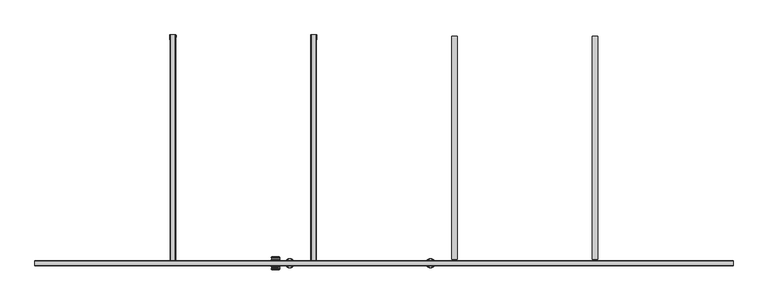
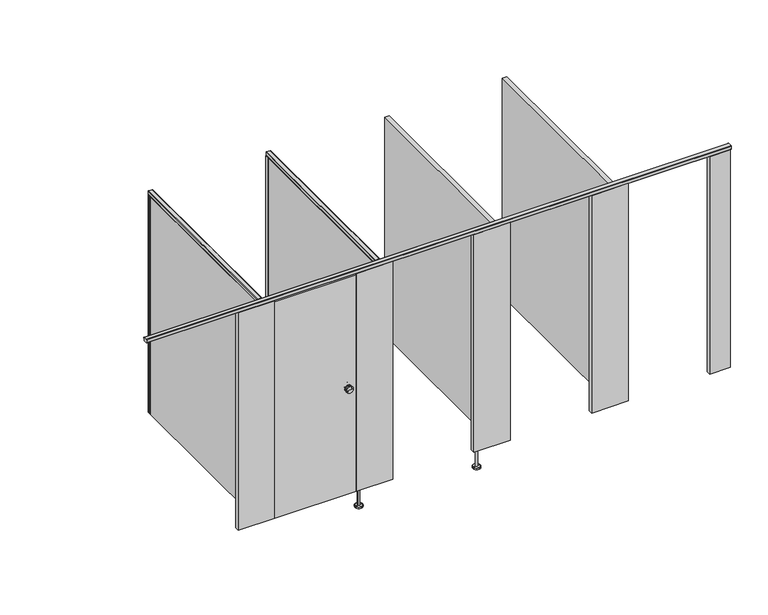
"""IFC4 building model written with IfcOpenShell, lengths in millimetres: proxy geometry, Partition_EuroStyle-Bradley_Corp-5StandardStall-NEP-LOFT : Partition_EuroStyle-Bradley_Corp-5StandardStall-NEP-LOFT."""

import ifcopenshell
import ifcopenshell.guid

model = None  # the IFC model being written
_history = None  # IfcOwnerHistory: only IFC2X3 demands one
_inside = {}  # id of a spatial element -> (the spatial element, [elements in it])
_under = {}  # id of a project, library or spatial element -> (it, [spatial elements below it])
_declared = {}  # id of a project -> (the project, [libraries it declares])
_typed = {}  # id of a type object -> (the type object, [elements of that type])
_made_of = {}  # id of a material, layer set ... -> (it, [elements and type objects made of it])


def new_model(schema):
    """Start an empty IFC model of exactly this schema.

    Asked for "IFC4X3", IfcOpenShell would pick the latest addendum, in which some entities
    have other attributes; the version numbers below select the first issue.
    IFC2X3 requires an IfcOwnerHistory on every rooted entity: one is made here for all.
    """
    global model, _history
    if schema == "IFC4X3":
        model = ifcopenshell.file(schema_version=(4, 3, 0, 0))
    else:
        model = ifcopenshell.file(schema=schema)
    _inside.clear()
    _under.clear()
    _declared.clear()
    _typed.clear()
    _made_of.clear()
    _history = None
    if model.schema == "IFC2X3":
        org = make("IfcOrganization", Name="unknown")
        user = make(
            "IfcPersonAndOrganization",
            ThePerson=make("IfcPerson", FamilyName="unknown"),
            TheOrganization=org,
        )
        app = make(
            "IfcApplication",
            ApplicationDeveloper=org,
            Version="unknown",
            ApplicationFullName="unknown",
            ApplicationIdentifier="unknown",
        )
        _history = make(
            "IfcOwnerHistory",
            OwningUser=user,
            OwningApplication=app,
            ChangeAction="ADDED",
            CreationDate=0,
        )
    return model


def make(cls, **values):
    """One entity of the class cls with the attributes given. An attribute that is None is left unset."""
    return model.create_entity(
        cls, **{name: value for name, value in values.items() if value is not None}
    )


def rooted(cls, **values):
    """An entity with a GlobalId (a new one), such as an element, a storey or a relation."""
    return make(cls, GlobalId=ifcopenshell.guid.new(), OwnerHistory=_history, **values)


def si_unit(unit_type, name, prefix=None):
    """IfcSIUnit, for example si_unit("LENGTHUNIT", "METRE", prefix="MILLI")."""
    return make("IfcSIUnit", UnitType=unit_type, Prefix=prefix, Name=name)


def assignment(units):
    """IfcUnitAssignment: the units of a project."""
    return None if units is None else make("IfcUnitAssignment", Units=units)


def point(xyz):
    """IfcCartesianPoint."""
    return None if xyz is None else make("IfcCartesianPoint", Coordinates=xyz)


def direction(xyz):
    """IfcDirection."""
    return None if xyz is None else make("IfcDirection", DirectionRatios=xyz)


def frame(location, z_axis=None, x_axis=None):
    """IfcAxis2Placement3D, a coordinate frame: its origin and axes. An axis left out is left unset."""
    return make(
        "IfcAxis2Placement3D",
        Location=point(location),
        Axis=direction(z_axis),
        RefDirection=direction(x_axis),
    )


def frame_2d(location, x_axis=None):
    """IfcAxis2Placement2D, a coordinate frame in the plane: its origin and x axis."""
    return make(
        "IfcAxis2Placement2D", Location=point(location), RefDirection=direction(x_axis)
    )


def origin():
    """The frame at (0, 0, 0) with its axes left unset."""
    return frame((0.0, 0.0, 0.0))


def place(relative_to, where):
    """IfcLocalPlacement: puts the frame where relative to a parent placement (None: the world)."""
    return make(
        "IfcLocalPlacement", PlacementRelTo=relative_to, RelativePlacement=where
    )


def context(
    kind, dimensions, precision=None, world=None, true_north=None, identifier=None
):
    """IfcGeometricRepresentationContext, for example the 3D "Model" context."""
    return make(
        "IfcGeometricRepresentationContext",
        ContextIdentifier=identifier,
        ContextType=kind,
        CoordinateSpaceDimension=dimensions,
        Precision=precision,
        WorldCoordinateSystem=world,
        TrueNorth=true_north,
    )


def project(units=None, contexts=None):
    """IfcProject with its units and contexts."""
    return rooted(
        "IfcProject",
        Name="project",
        RepresentationContexts=contexts,
        UnitsInContext=assignment(units),
    )


def spatial(cls, under=None, at=None, **own):
    """A site, building, storey or space (cls), placed at a placement, below another one or the project."""
    s = rooted(cls, ObjectPlacement=at, **own)
    if under is not None:
        _under.setdefault(under.id(), (under, []))[1].append(s)
    return s


def polyline(points):
    """IfcPolyline through the points."""
    return make("IfcPolyline", Points=[point(p) for p in points])


def circle_curve(where, radius):
    """IfcCircle in the frame where."""
    return make("IfcCircle", Position=where, Radius=radius)


def ellipse_curve(where, semi_axis1, semi_axis2):
    """IfcEllipse in the frame where."""
    return make(
        "IfcEllipse", Position=where, SemiAxis1=semi_axis1, SemiAxis2=semi_axis2
    )


def trimmed(basis, trim1, trim2, sense, master):
    """IfcTrimmedCurve: the piece of a basis curve between two trims."""
    return make(
        "IfcTrimmedCurve",
        BasisCurve=basis,
        Trim1=trim1,
        Trim2=trim2,
        SenseAgreement=sense,
        MasterRepresentation=master,
    )


def segment(curve, same_sense, transition):
    """IfcCompositeCurveSegment."""
    return make(
        "IfcCompositeCurveSegment",
        Transition=transition,
        SameSense=same_sense,
        ParentCurve=curve,
    )


def composite_curve(segments, self_intersect=None):
    """IfcCompositeCurve: segments joined end to end."""
    return make("IfcCompositeCurve", Segments=segments, SelfIntersect=self_intersect)


def outline(outer, holes=None, kind="AREA"):
    """IfcArbitraryClosedProfileDef: a profile drawn as a closed curve; with holes, ...WithVoids."""
    if holes is None:
        return make("IfcArbitraryClosedProfileDef", ProfileType=kind, OuterCurve=outer)
    return make(
        "IfcArbitraryProfileDefWithVoids",
        ProfileType=kind,
        OuterCurve=outer,
        InnerCurves=holes,
    )


def extrude(swept, where, along, depth):
    """IfcExtrudedAreaSolid: the profile swept, set in the frame where, extruded along a direction by depth."""
    return make(
        "IfcExtrudedAreaSolid",
        SweptArea=swept,
        Position=where,
        ExtrudedDirection=direction(along),
        Depth=depth,
    )


def shape(context_of_items, identifier, shape_type, items):
    """IfcShapeRepresentation: the items that make up one representation, for example the "Body"."""
    return make(
        "IfcShapeRepresentation",
        ContextOfItems=context_of_items,
        RepresentationIdentifier=identifier,
        RepresentationType=shape_type,
        Items=items,
    )


def source(mapping_origin, context_of_items, identifier, shape_type, items):
    """IfcRepresentationMap: a shape defined once, which mapped items show again and again."""
    return make(
        "IfcRepresentationMap",
        MappingOrigin=mapping_origin,
        MappedRepresentation=shape(context_of_items, identifier, shape_type, items),
    )


def transform(
    local_origin,
    x_axis=None,
    y_axis=None,
    z_axis=None,
    scale=None,
    scale2=None,
    scale3=None,
    uniform=True,
):
    """IfcCartesianTransformationOperator3D, or its non-uniform kind. x_axis, y_axis, z_axis: its Axis1, 2, 3."""
    if uniform:
        return make(
            "IfcCartesianTransformationOperator3D",
            Axis1=direction(x_axis),
            Axis2=direction(y_axis),
            LocalOrigin=point(local_origin),
            Scale=scale,
            Axis3=direction(z_axis),
        )
    return make(
        "IfcCartesianTransformationOperator3DnonUniform",
        Axis1=direction(x_axis),
        Axis2=direction(y_axis),
        LocalOrigin=point(local_origin),
        Scale=scale,
        Axis3=direction(z_axis),
        Scale2=scale2,
        Scale3=scale3,
    )


def mapped(mapping_source, mapping_target):
    """IfcMappedItem: shows the shape of a source again, moved by a transform."""
    return make(
        "IfcMappedItem", MappingSource=mapping_source, MappingTarget=mapping_target
    )


def made_of(thing, what):
    """Note that an element or type object is made of a material, layer set ...; save() writes the relation."""
    if what is not None:
        _made_of.setdefault(what.id(), (what, []))[1].append(thing)
    return thing


def element(
    cls,
    number,
    at=None,
    inside=None,
    cuts=None,
    type_object=None,
    material=None,
    context=None,
    identifier="Body",
    shape_type=None,
    held_by="IfcProductDefinitionShape",
    body=None,
    shapes=None,
    **own,
):
    """One element of the class cls, such as IfcWall. Its Tag is "e" and its number.

    at: its placement. inside: the storey or other place that contains it. cuts: it is an
    opening in that element (IfcRelVoidsElement). A single representation is given by context,
    identifier, shape_type and body (its items); several are given by shapes. held_by: the class
    of the entity that holds the representations. save() writes the other relations.
    """
    e = rooted(cls, Tag="e%d" % number, ObjectPlacement=at, **own)
    if body is not None:
        shapes = [shape(context, identifier, shape_type, body)]
    if shapes is not None:
        e.Representation = make(held_by, Representations=shapes)
    if inside is not None:
        _inside.setdefault(inside.id(), (inside, []))[1].append(e)
    if cuts is not None:
        rooted(
            "IfcRelVoidsElement", RelatingBuildingElement=cuts, RelatedOpeningElement=e
        )
    if type_object is not None:
        _typed.setdefault(type_object.id(), (type_object, []))[1].append(e)
    return made_of(e, material)


def aggregate(whole, parts):
    """IfcRelAggregates: a whole, such as a stair, and the parts it consists of."""
    return rooted("IfcRelAggregates", RelatingObject=whole, RelatedObjects=parts)


def save(model, path):
    """Write the relations noted so far, then the file.

    IfcRelAggregates (storeys below a building ...), IfcRelContainedInSpatialStructure (elements
    in a storey), IfcRelDefinesByType, IfcRelAssociatesMaterial and IfcRelDeclares: one each for
    every whole, place, type object, material and project.
    """
    for whole, parts in _under.values():
        aggregate(whole, parts)
    for where, things in _inside.values():
        rooted(
            "IfcRelContainedInSpatialStructure",
            RelatedElements=things,
            RelatingStructure=where,
        )
    for kind, things in _typed.values():
        rooted("IfcRelDefinesByType", RelatedObjects=things, RelatingType=kind)
    for what, things in _made_of.values():
        rooted("IfcRelAssociatesMaterial", RelatedObjects=things, RelatingMaterial=what)
    for by, libraries in _declared.values():
        rooted("IfcRelDeclares", RelatingContext=by, RelatedDefinitions=libraries)
    model.write(path)


def plane_surface(at):
    """IfcPlane: the flat surface through the origin of the frame at, square to its z axis."""
    return make("IfcPlane", Position=at)


def cylinder_surface(at, radius):
    """IfcCylindricalSurface: all points at the distance radius from the z axis of the frame at."""
    return make("IfcCylindricalSurface", Position=at, Radius=radius)


def revolved_surface(curve, axis_point, axis_direction):
    """IfcSurfaceOfRevolution: the curve turned about the line through axis_point along axis_direction."""
    return make(
        "IfcSurfaceOfRevolution",
        SweptCurve=make("IfcArbitraryOpenProfileDef", ProfileType="CURVE", Curve=curve),
        AxisPosition=make("IfcAxis1Placement", Location=point(axis_point), Axis=direction(axis_direction)),
    )


def advanced_brep(points, edges, surfaces, faces):
    """IfcAdvancedBrep: a solid bounded by faces that lie on surfaces and meet in shared edges.

    An edge is (start, end): straight between two places in points (the first is 0);
    or (start, end, curve); or (start, end, curve, False) where it runs against its curve.
    A face is (place in surfaces, loops), or (place, loops, False) where it looks against
    its surface's normal. A loop lists edges by number (the first is 1), with a minus sign
    where the edge is run from its end to its start. The first loop is the outer one.
    """
    corners = [point(p) for p in points]
    vertices = [make("IfcVertexPoint", VertexGeometry=c) for c in corners]
    made = []
    for start, end, *more in edges:
        made.append(
            make(
                "IfcEdgeCurve",
                EdgeStart=vertices[start],
                EdgeEnd=vertices[end],
                EdgeGeometry=more[0] if more else make("IfcPolyline", Points=[corners[start], corners[end]]),
                SameSense=more[1] if len(more) > 1 else True,
            )
        )
    hull = []
    for where, loops, *sense in faces:
        bounds = []
        for j, loop in enumerate(loops):
            ring = [make("IfcOrientedEdge", EdgeElement=made[abs(k) - 1], Orientation=k > 0) for k in loop]
            bounds.append(
                make(
                    "IfcFaceOuterBound" if j == 0 else "IfcFaceBound",
                    Bound=make("IfcEdgeLoop", EdgeList=ring),
                    Orientation=True,
                )
            )
        hull.append(make("IfcAdvancedFace", Bounds=bounds, FaceSurface=surfaces[where], SameSense=sense[0] if sense else True))
    return make("IfcAdvancedBrep", Outer=make("IfcClosedShell", CfsFaces=hull))


def specialty_equipment_55b33e95(model_context):
    return source(origin(), model_context, "Body", "SolidModel", [
        advanced_brep(
        [(2535.8453255, -1541.9996549, 150.0000008), (2553.8453248, -1541.9996549, 150.0000008), (2553.8453248, -1541.9996549, 12.0000001), (2535.8453255, -1541.9996549, 12.0000001), (2544.8453251, -1541.9996549, 150.0000008), (2513.8453262, -1541.9996549, 0.0), (2575.8453241, -1541.9996549, 0.0), (2544.8453251, -1541.9996549, 0.0), (2513.8453262, -1541.9996549, 10.0000001), (2575.8453241, -1541.9996549, 10.0000001), (2515.8477381, -1541.9996549, 12.0000001), (2573.8429122, -1541.9996549, 12.0000001)],
        [
            (0, 1, circle_curve(frame((2544.8453251, -1541.9996549, 150.0000008), z_axis=(0.0, 0.0, -1.0), x_axis=(1.0, 0.0, 0.0)), 8.9999997)),
            (1, 2),
            (2, 3, circle_curve(frame((2544.8453251, -1541.9996549, 12.0000001), z_axis=(0.0, 0.0, 1.0), x_axis=(1.0, 0.0, 0.0)), 8.9999997)),
            (3, 0),
            (1, 0, circle_curve(frame((2544.8453251, -1541.9996549, 150.0000008), z_axis=(0.0, 0.0, -1.0), x_axis=(1.0, 0.0, 0.0)), 8.9999997)),
            (3, 2, circle_curve(frame((2544.8453251, -1541.9996549, 12.0000001), z_axis=(0.0, 0.0, 1.0), x_axis=(1.0, 0.0, 0.0)), 8.9999997)),
            (4, 1),
            (0, 4),
            (5, 6, circle_curve(frame((2544.8453251, -1541.9996549, 0.0), z_axis=(0.0, 0.0, -1.0), x_axis=(1.0, 0.0, 0.0)), 30.9999989)),
            (6, 7),
            (7, 5),
            (6, 5, circle_curve(frame((2544.8453251, -1541.9996549, 0.0), z_axis=(0.0, 0.0, -1.0), x_axis=(1.0, 0.0, 0.0)), 30.9999989)),
            (8, 9, circle_curve(frame((2544.8453251, -1541.9996549, 10.0000001), z_axis=(0.0, 0.0, -1.0), x_axis=(1.0, 0.0, 0.0)), 30.9999989)),
            (9, 6),
            (5, 8),
            (9, 8, circle_curve(frame((2544.8453251, -1541.9996549, 10.0000001), z_axis=(0.0, 0.0, -1.0), x_axis=(1.0, 0.0, 0.0)), 30.9999989)),
            (10, 11, circle_curve(frame((2544.8453251, -1541.9996549, 12.0000001), z_axis=(0.0, 0.0, -1.0), x_axis=(1.0, 0.0, 0.0)), 28.997587)),
            (11, 9),
            (8, 10),
            (11, 10, circle_curve(frame((2544.8453251, -1541.9996549, 12.0000001), z_axis=(0.0, 0.0, -1.0), x_axis=(1.0, 0.0, 0.0)), 28.997587)),
            (2, 11),
            (10, 3),
        ],
        [
            cylinder_surface(frame((2544.8453251, -1541.9996549, 0.0), z_axis=(0.0, 0.0, 1.0), x_axis=(1.0, 0.0, 0.0)), 8.9999997),
            plane_surface(frame((2544.8453251, -1541.9996549, 150.0000008), z_axis=(0.0, 0.0, 1.0), x_axis=(1.0, 0.0, 0.0))),
            plane_surface(frame((2544.8453251, -1541.9996549, 0.0), z_axis=(0.0, 0.0, -1.0), x_axis=(1.0, 0.0, 0.0))),
            cylinder_surface(frame((2544.8453251, -1541.9996549, 0.0), z_axis=(0.0, 0.0, 1.0), x_axis=(1.0, 0.0, 0.0)), 30.9999989),
            revolved_surface(polyline([(2575.8453241, -1541.9996549, 10.0000001), (2573.8429122, -1541.9996549, 12.0000001)]), (2544.8453251, -1541.9996549, 0.0), (0.0, 0.0, 1.0)),
            plane_surface(frame((2544.8453251, -1541.9996549, 12.0000001), z_axis=(0.0, 0.0, 1.0), x_axis=(1.0, 0.0, 0.0))),
        ],
        [
            (0, [[1, 2, 3, 4]]),
            (0, [[5, -4, 6, -2]]),
            (1, [[7, -1, 8]]),
            (1, [[-8, -5, -7]]),
            (2, [[9, 10, 11]]),
            (2, [[12, -11, -10]]),
            (3, [[13, 14, -9, 15]]),
            (3, [[16, -15, -12, -14]]),
            (4, [[17, 18, -13, 19]]),
            (4, [[20, -19, -16, -18]]),
            (5, [[-3, 21, -17, 22]]),
            (5, [[-6, -22, -20, -21]]),
        ],
    ),
        advanced_brep(
        [(1470.4451766, -1524.0098174, 1050.0), (1527.5951766, -1524.0098174, 1050.0), (1499.0201766, -1524.0098174, 1050.0), (1470.4451766, -1519.2473174, 1050.0), (1527.5951766, -1519.2473174, 1050.0), (1470.4451766, -1500.1973174, 1050.0), (1527.5951766, -1500.1973174, 1050.0), (1527.5951766, -1504.9598174, 1050.0), (1470.4451766, -1504.9598174, 1050.0), (1526.0076766, -1506.5473174, 1050.0), (1472.0326766, -1506.5473174, 1050.0), (1526.0076766, -1517.6598174, 1050.0), (1472.0326766, -1517.6598174, 1050.0), (1499.0201766, -1498.6098174, 1050.0)],
        [
            (0, 1, circle_curve(frame((1499.0201766, -1524.0098174, 1050.0), z_axis=(0.0, -1.0, 0.0), x_axis=(1.0000000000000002, 0.0, 0.0)), 28.575)),
            (1, 2),
            (2, 0),
            (1, 0, circle_curve(frame((1499.0201766, -1524.0098174, 1050.0), z_axis=(0.0, -1.0, 0.0), x_axis=(1.0000000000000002, 0.0, 0.0)), 28.575)),
            (3, 4, circle_curve(frame((1499.0201766, -1519.2473174, 1050.0), z_axis=(0.0, -1.0, 0.0), x_axis=(1.0000000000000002, 0.0, 0.0)), 28.575)),
            (4, 1),
            (0, 3),
            (4, 3, circle_curve(frame((1499.0201766, -1519.2473174, 1050.0), z_axis=(0.0, -1.0, 0.0), x_axis=(1.0000000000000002, 0.0, 0.0)), 28.575)),
            (5, 6, circle_curve(frame((1499.0201766, -1500.1973174, 1050.0), z_axis=(0.0, -1.0, 0.0), x_axis=(1.0000000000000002, 0.0, 0.0)), 28.575)),
            (6, 7),
            (7, 8, circle_curve(frame((1499.0201766, -1504.9598174, 1050.0), z_axis=(0.0, 1.0, 0.0), x_axis=(1.0000000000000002, 0.0, 0.0)), 28.575)),
            (8, 5),
            (6, 5, circle_curve(frame((1499.0201766, -1500.1973174, 1050.0), z_axis=(0.0, -1.0, 0.0), x_axis=(1.0000000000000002, 0.0, 0.0)), 28.575)),
            (8, 7, circle_curve(frame((1499.0201766, -1504.9598174, 1050.0), z_axis=(0.0, 1.0, 0.0), x_axis=(1.0000000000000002, 0.0, 0.0)), 28.575)),
            (7, 9, circle_curve(frame((1527.5951766, -1506.5473174, 1050.0), z_axis=(0.0, 0.0, 1.0), x_axis=(1.0000000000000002, 0.0, 0.0)), 1.5875)),
            (9, 10, circle_curve(frame((1499.0201766, -1506.5473174, 1050.0), z_axis=(0.0, 1.0, 0.0), x_axis=(1.0000000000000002, 0.0, 0.0)), 26.9875)),
            (10, 8, circle_curve(frame((1470.4451766, -1506.5473174, 1050.0), z_axis=(0.0, 0.0, 1.0), x_axis=(-1.0000000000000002, 0.0, 0.0)), 1.5875)),
            (10, 9, circle_curve(frame((1499.0201766, -1506.5473174, 1050.0), z_axis=(0.0, 1.0, 0.0), x_axis=(1.0000000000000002, 0.0, 0.0)), 26.9875)),
            (9, 11),
            (11, 12, circle_curve(frame((1499.0201766, -1517.6598174, 1050.0), z_axis=(0.0, 1.0, 0.0), x_axis=(1.0000000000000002, 0.0, 0.0)), 26.9875)),
            (12, 10),
            (12, 11, circle_curve(frame((1499.0201766, -1517.6598174, 1050.0), z_axis=(0.0, 1.0, 0.0), x_axis=(1.0000000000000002, 0.0, 0.0)), 26.9875)),
            (11, 4, circle_curve(frame((1527.5951766, -1517.6598174, 1050.0), z_axis=(0.0, 0.0, 1.0), x_axis=(1.0000000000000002, 0.0, 0.0)), 1.5875)),
            (3, 12, circle_curve(frame((1470.4451766, -1517.6598174, 1050.0), z_axis=(0.0, 0.0, 1.0), x_axis=(-1.0000000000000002, 0.0, 0.0)), 1.5875)),
            (13, 6, circle_curve(frame((1502.7143, -1690.0843466, 1050.0), z_axis=(0.0, 0.0, -1.0), x_axis=(1.0000000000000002, 0.0, 0.0)), 191.5101613)),
            (5, 13, circle_curve(frame((1495.3260533, -1690.0843466, 1050.0), z_axis=(0.0, 0.0, -1.0), x_axis=(-1.0000000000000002, 0.0, 0.0)), 191.5101613)),
        ],
        [
            plane_surface(frame((1499.0201766, -1524.0098174, 1050.0), z_axis=(0.0, -1.0, 0.0), x_axis=(1.0, 0.0, 0.0))),
            cylinder_surface(frame((1499.0201766, -1524.0098174, 1050.0), z_axis=(0.0, 1.0000000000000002, 0.0), x_axis=(1.0000000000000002, 0.0, 0.0)), 28.575),
            revolved_surface(trimmed(ellipse_curve(frame((1527.5951766, -1506.5473174, 1050.0), z_axis=(0.0, 0.0, -1.0), x_axis=(1.0000000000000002, 0.0, 0.0)), 1.5875, 1.5875), [point((1526.0076766, -1506.5473174, 1050.0))], [point((1527.5951766, -1504.9598174, 1050.0))], True, "CARTESIAN"), (1499.0201766, -1524.0098174, 1050.0), (0.0, 1.0000000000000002, 0.0)),
            cylinder_surface(frame((1499.0201766, -1524.0098174, 1050.0), z_axis=(0.0, 1.0000000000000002, 0.0), x_axis=(1.0000000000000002, 0.0, 0.0)), 26.9875),
            revolved_surface(trimmed(ellipse_curve(frame((1527.5951766, -1517.6598174, 1050.0), z_axis=(0.0, 0.0, -1.0), x_axis=(1.0000000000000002, 0.0, 0.0)), 1.5875, 1.5875), [point((1527.5951766, -1519.2473174, 1050.0))], [point((1526.0076766, -1517.6598174, 1050.0))], True, "CARTESIAN"), (1499.0201766, -1524.0098174, 1050.0), (0.0, 1.0000000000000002, 0.0)),
            revolved_surface(trimmed(ellipse_curve(frame((1502.7143, -1690.0843466, 1050.0), z_axis=(0.0, 0.0, 1.0), x_axis=(1.0000000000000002, 0.0, 0.0)), 191.5101613, 191.5101613), [point((1527.5951766, -1500.1973174, 1050.0))], [point((1499.0201766, -1498.6098174, 1050.0))], True, "CARTESIAN"), (1499.0201766, -1524.0098174, 1050.0), (0.0, 1.0000000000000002, 0.0)),
        ],
        [
            (0, [[1, 2, 3]]),
            (0, [[4, -3, -2]]),
            (1, [[5, 6, -1, 7]]),
            (1, [[8, -7, -4, -6]]),
            (1, [[9, 10, 11, 12]]),
            (1, [[13, -12, 14, -10]]),
            (2, [[-11, 15, 16, 17]]),
            (2, [[-14, -17, 18, -15]]),
            (3, [[-16, 19, 20, 21]]),
            (3, [[-18, -21, 22, -19]]),
            (4, [[-20, 23, -5, 24]]),
            (4, [[-22, -24, -8, -23]]),
            (5, [[25, -9, 26]]),
            (5, [[-26, -13, -25]]),
        ],
    ),
        advanced_brep(
        [(1499.0201766, -1560.0098174, 1050.0), (1527.5951766, -1560.0098174, 1050.0), (1470.4451766, -1560.0098174, 1050.0), (1527.5951766, -1564.7723174, 1050.0), (1470.4451766, -1564.7723174, 1050.0), (1470.4451766, -1579.0598174, 1050.0), (1527.5951766, -1579.0598174, 1050.0), (1527.5951766, -1583.8223174, 1050.0), (1470.4451766, -1583.8223174, 1050.0), (1472.0326766, -1577.4723174, 1050.0), (1526.0076766, -1577.4723174, 1050.0), (1472.0326766, -1566.3598174, 1050.0), (1526.0076766, -1566.3598174, 1050.0), (1499.0201766, -1585.4098174, 1050.0)],
        [
            (0, 1),
            (1, 2, circle_curve(frame((1499.0201766, -1560.0098174, 1050.0), z_axis=(0.0, 1.0, 0.0), x_axis=(1.0000000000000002, 0.0, 0.0)), 28.575)),
            (2, 0),
            (2, 1, circle_curve(frame((1499.0201766, -1560.0098174, 1050.0), z_axis=(0.0, 1.0, 0.0), x_axis=(1.0000000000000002, 0.0, 0.0)), 28.575)),
            (1, 3),
            (3, 4, circle_curve(frame((1499.0201766, -1564.7723174, 1050.0), z_axis=(0.0, 1.0, 0.0), x_axis=(1.0000000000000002, 0.0, 0.0)), 28.575)),
            (4, 2),
            (4, 3, circle_curve(frame((1499.0201766, -1564.7723174, 1050.0), z_axis=(0.0, 1.0, 0.0), x_axis=(1.0000000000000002, 0.0, 0.0)), 28.575)),
            (5, 6, circle_curve(frame((1499.0201766, -1579.0598174, 1050.0), z_axis=(0.0, -1.0, 0.0), x_axis=(1.0000000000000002, 0.0, 0.0)), 28.575)),
            (6, 7),
            (7, 8, circle_curve(frame((1499.0201766, -1583.8223174, 1050.0), z_axis=(0.0, 1.0, 0.0), x_axis=(1.0000000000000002, 0.0, 0.0)), 28.575)),
            (8, 5),
            (6, 5, circle_curve(frame((1499.0201766, -1579.0598174, 1050.0), z_axis=(0.0, -1.0, 0.0), x_axis=(1.0000000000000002, 0.0, 0.0)), 28.575)),
            (8, 7, circle_curve(frame((1499.0201766, -1583.8223174, 1050.0), z_axis=(0.0, 1.0, 0.0), x_axis=(1.0000000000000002, 0.0, 0.0)), 28.575)),
            (9, 10, circle_curve(frame((1499.0201766, -1577.4723174, 1050.0), z_axis=(0.0, -1.0, 0.0), x_axis=(1.0000000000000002, 0.0, 0.0)), 26.9875)),
            (10, 6, circle_curve(frame((1527.5951766, -1577.4723174, 1050.0), z_axis=(0.0, 0.0, 1.0), x_axis=(1.0000000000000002, 0.0, 0.0)), 1.5875)),
            (5, 9, circle_curve(frame((1470.4451766, -1577.4723174, 1050.0), z_axis=(0.0, 0.0, 1.0), x_axis=(-1.0000000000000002, 0.0, 0.0)), 1.5875)),
            (10, 9, circle_curve(frame((1499.0201766, -1577.4723174, 1050.0), z_axis=(0.0, -1.0, 0.0), x_axis=(1.0000000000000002, 0.0, 0.0)), 26.9875)),
            (11, 12, circle_curve(frame((1499.0201766, -1566.3598174, 1050.0), z_axis=(0.0, -1.0, 0.0), x_axis=(1.0000000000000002, 0.0, 0.0)), 26.9875)),
            (12, 10),
            (9, 11),
            (12, 11, circle_curve(frame((1499.0201766, -1566.3598174, 1050.0), z_axis=(0.0, -1.0, 0.0), x_axis=(1.0000000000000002, 0.0, 0.0)), 26.9875)),
            (3, 12, circle_curve(frame((1527.5951766, -1566.3598174, 1050.0), z_axis=(0.0, 0.0, 1.0), x_axis=(1.0000000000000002, 0.0, 0.0)), 1.5875)),
            (11, 4, circle_curve(frame((1470.4451766, -1566.3598174, 1050.0), z_axis=(0.0, 0.0, 1.0), x_axis=(-1.0000000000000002, 0.0, 0.0)), 1.5875)),
            (7, 13, circle_curve(frame((1502.7143, -1393.9352882, 1050.0), z_axis=(0.0, 0.0, -1.0), x_axis=(1.0000000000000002, 0.0, 0.0)), 191.5101613)),
            (13, 8, circle_curve(frame((1495.3260533, -1393.9352882, 1050.0), z_axis=(0.0, 0.0, -1.0), x_axis=(-1.0000000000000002, 0.0, 0.0)), 191.5101613)),
        ],
        [
            plane_surface(frame((1499.0201766, -1560.0098174, 1050.0), z_axis=(0.0, 1.0, 0.0), x_axis=(1.0, 0.0, 0.0))),
            cylinder_surface(frame((1499.0201766, -1560.0098174, 1050.0), z_axis=(0.0, 1.0000000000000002, 0.0), x_axis=(1.0000000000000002, 0.0, 0.0)), 28.575),
            revolved_surface(trimmed(ellipse_curve(frame((1527.5951766, -1577.4723174, 1050.0), z_axis=(0.0, 0.0, -1.0), x_axis=(1.0000000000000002, 0.0, 0.0)), 1.5875, 1.5875), [point((1527.5951766, -1579.0598174, 1050.0))], [point((1526.0076766, -1577.4723174, 1050.0))], True, "CARTESIAN"), (1499.0201766, -1560.0098174, 1050.0), (0.0, 1.0000000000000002, 0.0)),
            cylinder_surface(frame((1499.0201766, -1560.0098174, 1050.0), z_axis=(0.0, 1.0000000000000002, 0.0), x_axis=(1.0000000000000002, 0.0, 0.0)), 26.9875),
            revolved_surface(trimmed(ellipse_curve(frame((1527.5951766, -1566.3598174, 1050.0), z_axis=(0.0, 0.0, -1.0), x_axis=(1.0000000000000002, 0.0, 0.0)), 1.5875, 1.5875), [point((1526.0076766, -1566.3598174, 1050.0))], [point((1527.5951766, -1564.7723174, 1050.0))], True, "CARTESIAN"), (1499.0201766, -1560.0098174, 1050.0), (0.0, 1.0000000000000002, 0.0)),
            revolved_surface(trimmed(ellipse_curve(frame((1502.7143, -1393.9352882, 1050.0), z_axis=(0.0, 0.0, 1.0), x_axis=(1.0000000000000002, 0.0, 0.0)), 191.5101613, 191.5101613), [point((1499.0201766, -1585.4098174, 1050.0))], [point((1527.5951766, -1583.8223174, 1050.0))], True, "CARTESIAN"), (1499.0201766, -1560.0098174, 1050.0), (0.0, 1.0000000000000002, 0.0)),
        ],
        [
            (0, [[1, 2, 3]]),
            (0, [[-3, 4, -1]]),
            (1, [[-2, 5, 6, 7]]),
            (1, [[-4, -7, 8, -5]]),
            (1, [[9, 10, 11, 12]]),
            (1, [[13, -12, 14, -10]]),
            (2, [[15, 16, -9, 17]]),
            (2, [[18, -17, -13, -16]]),
            (3, [[19, 20, -15, 21]]),
            (3, [[22, -21, -18, -20]]),
            (4, [[-6, 23, -19, 24]]),
            (4, [[-8, -24, -22, -23]]),
            (5, [[-11, 25, 26]]),
            (5, [[-14, -26, -25]]),
        ],
    ),
        extrude(outline(polyline([(907.4170903, -1523.9894923), (1562.5201766, -1523.9894923), (1562.5201766, -1560.0098174), (907.4170903, -1560.0098174), (907.4170903, -1523.9894923)])), frame((0.0, 0.0, 150.1179687), z_axis=(0.0, 0.0, 1.0), x_axis=(1.0, 0.0, 0.0)), (0.0, 0.0, 1.0), 1845.8820313),
        extrude(outline(composite_curve([segment(polyline([(1735.3288796, -32.5000002), (1734.8205405, -2.02918)]), True, "CONTINUOUS"), segment(trimmed(circle_curve(frame_2d((1736.8497205, -2.02918)), 2.02918), [point((1734.8205405, -2.02918))], [point((1736.8497205, 0.0))], False, "CARTESIAN"), True, "CONTINUOUS"), segment(polyline([(1736.8497205, 0.0), (1774.7909298, 0.0)]), True, "CONTINUOUS"), segment(trimmed(circle_curve(frame_2d((1774.7909298, -2.02918)), 2.02918), [point((1774.7909298, 0.0))], [point((1776.8201098, -2.02918))], False, "CARTESIAN"), True, "CONTINUOUS"), segment(polyline([(1776.8201098, -2.02918), (1776.3117707, -32.5000002), (1774.8131851, -32.5000002)]), True, "CONTINUOUS"), segment(trimmed(circle_curve(frame_2d((1774.8167525, -31.5009082)), 0.9990984), [point((1774.8131851, -32.5000002))], [point((1774.3430999, -30.6212202))], False, "CARTESIAN"), True, "CONTINUOUS"), segment(polyline([(1774.3430999, -30.6212202), (1774.4642099, -23.3575702)]), True, "CONTINUOUS"), segment(trimmed(circle_curve(frame_2d((1774.9817558, -22.5000551)), 1.0015917), [point((1774.4642099, -23.3575702))], [point((1774.4926587, -21.6260013))], False, "CARTESIAN"), True, "CONTINUOUS"), segment(polyline([(1774.4926587, -21.6260013), (1774.78671, -4.0)]), True, "CONTINUOUS"), segment(trimmed(circle_curve(frame_2d((1772.7870154, -3.9990939)), 1.9996948), [point((1774.78671, -4.0))], [point((1772.7379958, -2.0))], True, "CARTESIAN"), True, "CONTINUOUS"), segment(polyline([(1772.7379958, -2.0), (1738.8536968, -2.0)]), True, "CONTINUOUS"), segment(trimmed(circle_curve(frame_2d((1738.8536968, -4.0002204)), 2.0002204), [point((1738.8536968, -2.0))], [point((1736.8535049, -3.9895469))], True, "CARTESIAN"), True, "CONTINUOUS"), segment(polyline([(1736.8535049, -3.9895469), (1737.1475604, -21.6257602)]), True, "CONTINUOUS"), segment(trimmed(circle_curve(frame_2d((1736.6588945, -22.5000551)), 1.0015917), [point((1737.1475604, -21.6257602))], [point((1737.1764404, -23.3575702))], False, "CARTESIAN"), True, "CONTINUOUS"), segment(polyline([(1737.1764404, -23.3575702), (1737.2975504, -30.6212202)]), True, "CONTINUOUS"), segment(trimmed(circle_curve(frame_2d((1736.8238978, -31.5009082)), 0.9990984), [point((1737.2975504, -30.6212202))], [point((1736.8274652, -32.5000002))], False, "CARTESIAN"), True, "CONTINUOUS"), segment(polyline([(1736.8274652, -32.5000002), (1735.3288796, -32.5000002)]), True, "CONTINUOUS")], self_intersect=False)), frame((0.0, 0.0, 150.0), z_axis=(0.0, 0.0, 1.0), x_axis=(1.0, 0.0, 0.0)), (0.0, 0.0, 1.0), 1855.0),
        extrude(outline(composite_curve([segment(polyline([(784.918717, -32.5000002), (784.4103779, -2.02918)]), True, "CONTINUOUS"), segment(trimmed(circle_curve(frame_2d((786.4395579, -2.02918)), 2.02918), [point((784.4103779, -2.02918))], [point((786.4395579, 0.0))], False, "CARTESIAN"), True, "CONTINUOUS"), segment(polyline([(786.4395579, 0.0), (824.3807672, 0.0)]), True, "CONTINUOUS"), segment(trimmed(circle_curve(frame_2d((824.3807672, -2.02918)), 2.02918), [point((824.3807672, 0.0))], [point((826.4099473, -2.02918))], False, "CARTESIAN"), True, "CONTINUOUS"), segment(polyline([(826.4099473, -2.02918), (825.9016081, -32.5000002), (824.4030225, -32.5000002)]), True, "CONTINUOUS"), segment(trimmed(circle_curve(frame_2d((824.4065899, -31.5009082)), 0.9990984), [point((824.4030225, -32.5000002))], [point((823.9329373, -30.6212202))], False, "CARTESIAN"), True, "CONTINUOUS"), segment(polyline([(823.9329373, -30.6212202), (824.0540473, -23.3575702)]), True, "CONTINUOUS"), segment(trimmed(circle_curve(frame_2d((824.5715932, -22.5000551)), 1.0015917), [point((824.0540473, -23.3575702))], [point((824.0824961, -21.6260013))], False, "CARTESIAN"), True, "CONTINUOUS"), segment(polyline([(824.0824961, -21.6260013), (824.3765475, -4.0)]), True, "CONTINUOUS"), segment(trimmed(circle_curve(frame_2d((822.3768528, -3.9990939)), 1.9996948), [point((824.3765475, -4.0))], [point((822.3278332, -2.0))], True, "CARTESIAN"), True, "CONTINUOUS"), segment(polyline([(822.3278332, -2.0), (788.4435342, -2.0)]), True, "CONTINUOUS"), segment(trimmed(circle_curve(frame_2d((788.4435342, -4.0002204)), 2.0002204), [point((788.4435342, -2.0))], [point((786.4433424, -3.9895469))], True, "CARTESIAN"), True, "CONTINUOUS"), segment(polyline([(786.4433424, -3.9895469), (786.7373979, -21.6257602)]), True, "CONTINUOUS"), segment(trimmed(circle_curve(frame_2d((786.248732, -22.5000551)), 1.0015917), [point((786.7373979, -21.6257602))], [point((786.7662779, -23.3575702))], False, "CARTESIAN"), True, "CONTINUOUS"), segment(polyline([(786.7662779, -23.3575702), (786.8873879, -30.6212202)]), True, "CONTINUOUS"), segment(trimmed(circle_curve(frame_2d((786.4137352, -31.5009082)), 0.9990984), [point((786.8873879, -30.6212202))], [point((786.4173026, -32.5000002))], False, "CARTESIAN"), True, "CONTINUOUS"), segment(polyline([(786.4173026, -32.5000002), (784.918717, -32.5000002)]), True, "CONTINUOUS")], self_intersect=False)), frame((0.0, 0.0, 150.0), z_axis=(0.0, 0.0, 1.0), x_axis=(1.0, 0.0, 0.0)), (0.0, 0.0, 1.0), 1855.0),
        extrude(outline(composite_curve([segment(polyline([(2032.9666591, 1737.8203701), (2005.7492965, 1738.2741806)]), True, "CONTINUOUS"), segment(trimmed(circle_curve(frame_2d((2005.762, 1739.0360747)), 0.762), [point((2005.7492965, 1738.2741806))], [point((2005.0, 1739.0360747))], False, "CARTESIAN"), True, "CONTINUOUS"), segment(polyline([(2005.0, 1739.0360747), (2005.0, 1772.5733505)]), True, "CONTINUOUS"), segment(trimmed(circle_curve(frame_2d((2005.79375, 1772.5733505)), 0.79375), [point((2005.0, 1772.5733505))], [point((2005.7805172, 1773.3669902))], False, "CARTESIAN"), True, "CONTINUOUS"), segment(polyline([(2005.7805172, 1773.3669902), (2032.9666591, 1773.8202802)]), True, "CONTINUOUS"), segment(trimmed(circle_curve(frame_2d((2033.0000015, 1771.8205597)), 1.9999985), [point((2032.9666591, 1773.8202802))], [point((2035.0, 1771.8205597))], False, "CARTESIAN"), True, "CONTINUOUS"), segment(polyline([(2035.0, 1771.8205597), (2035.0, 1739.8200907)]), True, "CONTINUOUS"), segment(trimmed(circle_curve(frame_2d((2033.0000015, 1739.8200907)), 1.9999985), [point((2035.0, 1739.8200907))], [point((2032.9666591, 1737.8203701))], False, "CARTESIAN"), True, "CONTINUOUS")], self_intersect=False)), frame((0.0, -1524.0, 0.0), z_axis=(0.0, 1.0, 0.0), x_axis=(0.0, 0.0, 1.0)), (0.0, 0.0, 1.0), 1524.0),
        extrude(outline(composite_curve([segment(polyline([(-1523.9996998, 2032.9666591), (-1524.4535103, 2005.7492965)]), True, "CONTINUOUS"), segment(trimmed(circle_curve(frame_2d((-1525.2154044, 2005.762)), 0.762), [point((-1524.4535103, 2005.7492965))], [point((-1525.2154044, 2005.0))], False, "CARTESIAN"), True, "CONTINUOUS"), segment(polyline([(-1525.2154044, 2005.0), (-1558.7526802, 2005.0)]), True, "CONTINUOUS"), segment(trimmed(circle_curve(frame_2d((-1558.7526802, 2005.79375)), 0.79375), [point((-1558.7526802, 2005.0))], [point((-1559.5463199, 2005.7805172))], False, "CARTESIAN"), True, "CONTINUOUS"), segment(polyline([(-1559.5463199, 2005.7805172), (-1559.9996099, 2032.9666591)]), True, "CONTINUOUS"), segment(trimmed(circle_curve(frame_2d((-1557.9998894, 2033.0000015)), 1.9999985), [point((-1559.9996099, 2032.9666591))], [point((-1557.9998894, 2035.0))], False, "CARTESIAN"), True, "CONTINUOUS"), segment(polyline([(-1557.9998894, 2035.0), (-1525.9994204, 2035.0)]), True, "CONTINUOUS"), segment(trimmed(circle_curve(frame_2d((-1525.9994204, 2033.0000015)), 1.9999985), [point((-1525.9994204, 2035.0))], [point((-1523.9996998, 2032.9666591))], False, "CARTESIAN"), True, "CONTINUOUS")], self_intersect=False)), frame((-127.0, 0.0, 0.0), z_axis=(1.0, 0.0, 0.0), x_axis=(0.0, 1.0, 0.0)), (0.0, 0.0, 1.0), 4716.0203251),
        extrude(outline(composite_curve([segment(polyline([(2032.9666591, 787.4102076), (2005.7492965, 787.8640181)]), True, "CONTINUOUS"), segment(trimmed(circle_curve(frame_2d((2005.762, 788.6259122)), 0.762), [point((2005.7492965, 787.8640181))], [point((2005.0, 788.6259122))], False, "CARTESIAN"), True, "CONTINUOUS"), segment(polyline([(2005.0, 788.6259122), (2005.0, 822.163188)]), True, "CONTINUOUS"), segment(trimmed(circle_curve(frame_2d((2005.79375, 822.163188)), 0.79375), [point((2005.0, 822.163188))], [point((2005.7805172, 822.9568277))], False, "CARTESIAN"), True, "CONTINUOUS"), segment(polyline([(2005.7805172, 822.9568277), (2032.9666591, 823.4101176)]), True, "CONTINUOUS"), segment(trimmed(circle_curve(frame_2d((2033.0000015, 821.4103971)), 1.9999985), [point((2032.9666591, 823.4101176))], [point((2035.0, 821.4103971))], False, "CARTESIAN"), True, "CONTINUOUS"), segment(polyline([(2035.0, 821.4103971), (2035.0, 789.4099281)]), True, "CONTINUOUS"), segment(trimmed(circle_curve(frame_2d((2033.0000015, 789.4099281)), 1.9999985), [point((2035.0, 789.4099281))], [point((2032.9666591, 787.4102076))], False, "CARTESIAN"), True, "CONTINUOUS")], self_intersect=False)), frame((0.0, -1524.0, 0.0), z_axis=(0.0, 1.0, 0.0), x_axis=(0.0, 0.0, 1.0)), (0.0, 0.0, 1.0), 1524.0),
        advanced_brep(
        [(1585.4453255, -1541.9996549, 150.0000008), (1603.4453248, -1541.9996549, 150.0000008), (1603.4453248, -1541.9996549, 12.0000001), (1585.4453255, -1541.9996549, 12.0000001), (1594.4453251, -1541.9996549, 150.0000008), (1563.4453262, -1541.9996549, 0.0), (1625.4453241, -1541.9996549, 0.0), (1594.4453251, -1541.9996549, 0.0), (1563.4453262, -1541.9996549, 10.0000001), (1625.4453241, -1541.9996549, 10.0000001), (1565.4477381, -1541.9996549, 12.0000001), (1623.4429122, -1541.9996549, 12.0000001)],
        [
            (0, 1, circle_curve(frame((1594.4453251, -1541.9996549, 150.0000008), z_axis=(0.0, 0.0, -1.0), x_axis=(1.0, 0.0, 0.0)), 8.9999997)),
            (1, 2),
            (2, 3, circle_curve(frame((1594.4453251, -1541.9996549, 12.0000001), z_axis=(0.0, 0.0, 1.0), x_axis=(1.0, 0.0, 0.0)), 8.9999997)),
            (3, 0),
            (1, 0, circle_curve(frame((1594.4453251, -1541.9996549, 150.0000008), z_axis=(0.0, 0.0, -1.0), x_axis=(1.0, 0.0, 0.0)), 8.9999997)),
            (3, 2, circle_curve(frame((1594.4453251, -1541.9996549, 12.0000001), z_axis=(0.0, 0.0, 1.0), x_axis=(1.0, 0.0, 0.0)), 8.9999997)),
            (4, 1),
            (0, 4),
            (5, 6, circle_curve(frame((1594.4453251, -1541.9996549, 0.0), z_axis=(0.0, 0.0, -1.0), x_axis=(1.0, 0.0, 0.0)), 30.9999989)),
            (6, 7),
            (7, 5),
            (6, 5, circle_curve(frame((1594.4453251, -1541.9996549, 0.0), z_axis=(0.0, 0.0, -1.0), x_axis=(1.0, 0.0, 0.0)), 30.9999989)),
            (8, 9, circle_curve(frame((1594.4453251, -1541.9996549, 10.0000001), z_axis=(0.0, 0.0, -1.0), x_axis=(1.0, 0.0, 0.0)), 30.9999989)),
            (9, 6),
            (5, 8),
            (9, 8, circle_curve(frame((1594.4453251, -1541.9996549, 10.0000001), z_axis=(0.0, 0.0, -1.0), x_axis=(1.0, 0.0, 0.0)), 30.9999989)),
            (10, 11, circle_curve(frame((1594.4453251, -1541.9996549, 12.0000001), z_axis=(0.0, 0.0, -1.0), x_axis=(1.0, 0.0, 0.0)), 28.997587)),
            (11, 9),
            (8, 10),
            (11, 10, circle_curve(frame((1594.4453251, -1541.9996549, 12.0000001), z_axis=(0.0, 0.0, -1.0), x_axis=(1.0, 0.0, 0.0)), 28.997587)),
            (2, 11),
            (10, 3),
        ],
        [
            cylinder_surface(frame((1594.4453251, -1541.9996549, 0.0), z_axis=(0.0, 0.0, 1.0), x_axis=(1.0, 0.0, 0.0)), 8.9999997),
            plane_surface(frame((1594.4453251, -1541.9996549, 150.0000008), z_axis=(0.0, 0.0, 1.0), x_axis=(1.0, 0.0, 0.0))),
            plane_surface(frame((1594.4453251, -1541.9996549, 0.0), z_axis=(0.0, 0.0, -1.0), x_axis=(1.0, 0.0, 0.0))),
            cylinder_surface(frame((1594.4453251, -1541.9996549, 0.0), z_axis=(0.0, 0.0, 1.0), x_axis=(1.0, 0.0, 0.0)), 30.9999989),
            revolved_surface(polyline([(1625.4453241, -1541.9996549, 10.0000001), (1623.4429122, -1541.9996549, 12.0000001)]), (1594.4453251, -1541.9996549, 0.0), (0.0, 0.0, 1.0)),
            plane_surface(frame((1594.4453251, -1541.9996549, 12.0000001), z_axis=(0.0, 0.0, 1.0), x_axis=(1.0, 0.0, 0.0))),
        ],
        [
            (0, [[1, 2, 3, 4]]),
            (0, [[5, -4, 6, -2]]),
            (1, [[7, -1, 8]]),
            (1, [[-8, -5, -7]]),
            (2, [[9, 10, 11]]),
            (2, [[12, -11, -10]]),
            (3, [[13, 14, -9, 15]]),
            (3, [[16, -15, -12, -14]]),
            (4, [[17, 18, -13, 19]]),
            (4, [[20, -19, -16, -18]]),
            (5, [[-3, 21, -17, 22]]),
            (5, [[-6, -22, -20, -21]]),
        ],
    ),
        extrude(outline(polyline([(3638.6203251, -1514.0), (3638.6203251, -9.9993891), (3674.6203251, -9.9993891), (3674.6203251, -1514.0), (3638.6203251, -1514.0)])), frame((0.0, 0.0, 150.0), z_axis=(0.0, 0.0, 1.0), x_axis=(1.0, 0.0, 0.0)), (0.0, 0.0, 1.0), 1855.0),
        extrude(outline(polyline([(4414.2181968, -1524.0), (4579.1143251, -1524.0), (4579.1143251, -1559.9996549), (4414.2181968, -1559.9996549), (4414.2181968, -1524.0)])), frame((0.0, 0.0, 150.0), z_axis=(0.0, 0.0, 1.0), x_axis=(1.0, 0.0, 0.0)), (0.0, 0.0, 1.0), 1855.0),
        extrude(outline(polyline([(907.4170903, -1524.0), (907.4170903, -1559.9996549), (612.1100141, -1559.9996549), (612.1100141, -1524.0), (907.4170903, -1524.0)])), frame((0.0, 0.0, 150.0), z_axis=(0.0, 0.0, 1.0), x_axis=(1.0, 0.0, 0.0)), (0.0, 0.0, 1.0), 1855.0),
        extrude(outline(polyline([(1857.8170903, -1524.0), (1857.8170903, -1559.9996549), (1562.5201766, -1559.9996549), (1562.5201766, -1524.0), (1857.8170903, -1524.0)])), frame((0.0, 0.0, 150.0), z_axis=(0.0, 0.0, 1.0), x_axis=(1.0, 0.0, 0.0)), (0.0, 0.0, 1.0), 1855.0),
        extrude(outline(polyline([(2808.2170903, -1524.0), (2808.2170903, -1559.9996549), (2512.9201766, -1559.9996549), (2512.9201766, -1524.0), (2808.2170903, -1524.0)])), frame((0.0, 0.0, 150.0), z_axis=(0.0, 0.0, 1.0), x_axis=(1.0, 0.0, 0.0)), (0.0, 0.0, 1.0), 1855.0),
        extrude(outline(polyline([(3463.3201766, -1524.0), (3758.6203251, -1524.0), (3758.6203251, -1559.9996549), (3463.3201766, -1559.9996549), (3463.3201766, -1524.0)])), frame((0.0, 0.0, 150.0), z_axis=(0.0, 0.0, 1.0), x_axis=(1.0, 0.0, 0.0)), (0.0, 0.0, 1.0), 1855.0),
        extrude(outline(polyline([(2688.2203251, -1514.0), (2688.2203251, -9.9993891), (2724.2203251, -9.9993891), (2724.2203251, -1514.0), (2688.2203251, -1514.0)])), frame((0.0, 0.0, 150.0), z_axis=(0.0, 0.0, 1.0), x_axis=(1.0, 0.0, 0.0)), (0.0, 0.0, 1.0), 1855.0),
        extrude(outline(polyline([(1737.8203251, -1514.0), (1737.8203251, -9.9993891), (1773.8203251, -9.9993891), (1773.8203251, -1514.0), (1737.8203251, -1514.0)])), frame((0.0, 0.0, 150.0), z_axis=(0.0, 0.0, 1.0), x_axis=(1.0, 0.0, 0.0)), (0.0, 0.0, 1.0), 1855.0),
        extrude(outline(polyline([(787.4, -1524.0), (787.4, -9.9993891), (823.4203251, -9.9993891), (823.4203251, -1524.0), (787.4, -1524.0)])), frame((0.0, 0.0, 150.0), z_axis=(0.0, 0.0, 1.0), x_axis=(1.0, 0.0, 0.0)), (0.0, 0.0, 1.0), 1855.0),
    ])


if __name__ == "__main__":
    model = new_model("IFC4")
    model_context = context("Model", 3, world=origin())
    ifc_project = project(units=[si_unit("LENGTHUNIT", "METRE", prefix="MILLI")], contexts=[model_context])
    site = spatial("IfcSite", under=ifc_project)
    building = spatial("IfcBuilding", under=site)
    placement = place(None, origin())
    specialty_equipment_shape = specialty_equipment_55b33e95(model_context)
    element("IfcBuildingElementProxy", 1, Name="Partition_EuroStyle-Bradley_Corp-5StandardStall-NEP-LOFT : Partition_EuroStyle-Bradley_Corp-5StandardStall-NEP-LOFT", ObjectType="Partition_EuroStyle-Bradley_Corp-5StandardStall-NEP-LOFT : Partition_EuroStyle-Bradley_Corp-5StandardStall-NEP-LOFT", at=placement, inside=building, context=model_context, shape_type="MappedRepresentation", body=[
        mapped(specialty_equipment_shape, transform((0.0, 0.0, 0.0), x_axis=(1.0, 0.0, 0.0), y_axis=(0.0, 1.0, 0.0), z_axis=(0.0, 0.0, 1.0))),
    ])
    save(model, "model.ifc")
